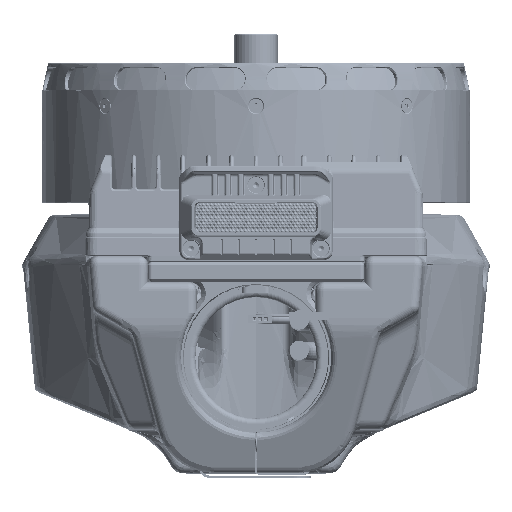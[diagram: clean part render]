
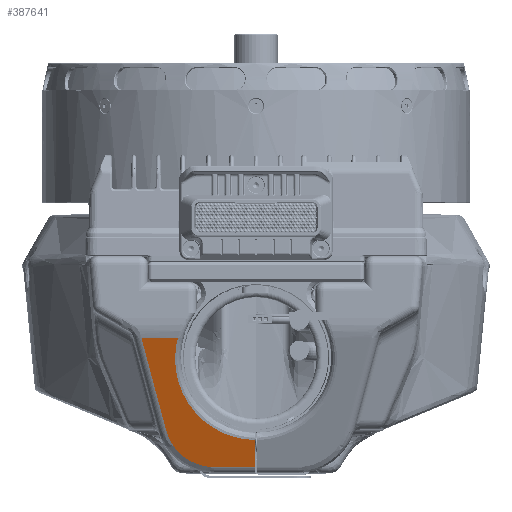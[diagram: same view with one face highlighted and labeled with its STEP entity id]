
A CAD part, top view. The second image highlights one B-rep face of the part: STEP entity #387641.
In plain terms, the highlighted planar face has unit normal (0, -0.342, 0.94).
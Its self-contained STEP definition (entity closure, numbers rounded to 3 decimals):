
#8993 = CARTESIAN_POINT ( 'NONE',  ( 14.653, -38.026, 140.52 ) ) ;
#9891 = DIRECTION ( 'NONE',  ( -1., 0., 0. ) ) ;
#15920 = CARTESIAN_POINT ( 'NONE',  ( -39.679, 6.686, 156.794 ) ) ;
#29533 = CARTESIAN_POINT ( 'NONE',  ( -0.5, -28.68, 143.922 ) ) ;
#45814 = CARTESIAN_POINT ( 'NONE',  ( -0.5, -28.68, 143.922 ) ) ;
#52239 = EDGE_CURVE ( 'NONE', #202598, #122658, #120311, .T. ) ;
#75544 = EDGE_CURVE ( 'NONE', #122658, #155659, #384957, .T. ) ;
#82303 = EDGE_CURVE ( 'NONE', #326124, #196541, #129674, .T. ) ;
#94206 = PLANE ( 'NONE',  #268714 ) ;
#94719 = CARTESIAN_POINT ( 'NONE',  ( -22.655, -38.026, 140.52 ) ) ;
#102432 =( BOUNDED_CURVE ( )  B_SPLINE_CURVE ( 3, ( #45814, #197483, #273383, #124104 ),
 .UNSPECIFIED., .F., .F. ) 
 B_SPLINE_CURVE_WITH_KNOTS ( ( 4, 4 ),
 ( 0.018, 1.837 ),
 .UNSPECIFIED. ) 
 CURVE ( )  GEOMETRIC_REPRESENTATION_ITEM ( )  RATIONAL_B_SPLINE_CURVE ( ( 1., 0.743, 0.743, 1. ) ) 
 REPRESENTATION_ITEM ( '' )  );
#120311 = LINE ( 'NONE', #8993, #358769 ) ;
#122658 = VERTEX_POINT ( 'NONE', #286259 ) ;
#124104 = CARTESIAN_POINT ( 'NONE',  ( -27.013, 6.686, 156.794 ) ) ;
#126182 = CARTESIAN_POINT ( 'NONE',  ( -81.247, 6.686, 156.794 ) ) ;
#129674 = LINE ( 'NONE', #400252, #147383 ) ;
#147383 = VECTOR ( 'NONE', #316879, 1000. ) ;
#155659 = VERTEX_POINT ( 'NONE', #29533 ) ;
#194776 = CARTESIAN_POINT ( 'NONE',  ( -27.013, 6.686, 156.794 ) ) ;
#195905 = ORIENTED_EDGE ( 'NONE', *, *, #478522, .T. ) ;
#196541 = VERTEX_POINT ( 'NONE', #200026 ) ;
#197483 = CARTESIAN_POINT ( 'NONE',  ( -20.335, -28.325, 144.051 ) ) ;
#200026 = CARTESIAN_POINT ( 'NONE',  ( -31.074, -25.426, 145.106 ) ) ;
#202598 = VERTEX_POINT ( 'NONE', #234142 ) ;
#220248 = CARTESIAN_POINT ( 'NONE',  ( -31.074, -25.426, 145.106 ) ) ;
#222516 = ORIENTED_EDGE ( 'NONE', *, *, #75544, .T. ) ;
#234142 = CARTESIAN_POINT ( 'NONE',  ( -14.653, -38.026, 140.52 ) ) ;
#240874 = DIRECTION ( 'NONE',  ( 0., 0.94, 0.342 ) ) ;
#248893 = CARTESIAN_POINT ( 'NONE',  ( -14.653, -38.026, 140.52 ) ) ;
#250889 = DIRECTION ( 'NONE',  ( 0., 0.342, -0.94 ) ) ;
#268714 = AXIS2_PLACEMENT_3D ( 'NONE', #402675, #250889, #240874 ) ;
#273383 = CARTESIAN_POINT ( 'NONE',  ( -32.234, -12.452, 149.828 ) ) ;
#274556 = DIRECTION ( 'NONE',  ( 1., 0., 0. ) ) ;
#286259 = CARTESIAN_POINT ( 'NONE',  ( -0.5, -38.026, 140.52 ) ) ;
#292124 = EDGE_CURVE ( 'NONE', #386640, #326124, #356292, .T. ) ;
#301617 = DIRECTION ( 'NONE',  ( 0., 0.94, 0.342 ) ) ;
#307600 = EDGE_CURVE ( 'NONE', #196541, #202598, #484789, .T. ) ;
#316879 = DIRECTION ( 'NONE',  ( 0.244, -0.911, -0.332 ) ) ;
#324319 = FACE_OUTER_BOUND ( 'NONE', #364888, .T. ) ;
#326124 = VERTEX_POINT ( 'NONE', #15920 ) ;
#344550 = ORIENTED_EDGE ( 'NONE', *, *, #52239, .T. ) ;
#356292 = LINE ( 'NONE', #126182, #420802 ) ;
#358769 = VECTOR ( 'NONE', #274556, 1000. ) ;
#364888 = EDGE_LOOP ( 'NONE', ( #344550, #222516, #195905, #367577, #397908, #491178 ) ) ;
#367577 = ORIENTED_EDGE ( 'NONE', *, *, #292124, .T. ) ;
#384957 = LINE ( 'NONE', #417908, #500565 ) ;
#386640 = VERTEX_POINT ( 'NONE', #194776 ) ;
#387641 = ADVANCED_FACE ( 'NONE', ( #324319 ), #94206, .F. ) ;
#397908 = ORIENTED_EDGE ( 'NONE', *, *, #82303, .T. ) ;
#400252 = CARTESIAN_POINT ( 'NONE',  ( -42.992, 19.051, 161.294 ) ) ;
#400667 = CARTESIAN_POINT ( 'NONE',  ( -29.003, -33.155, 142.293 ) ) ;
#402675 = CARTESIAN_POINT ( 'NONE',  ( -81.247, 10., 158. ) ) ;
#417908 = CARTESIAN_POINT ( 'NONE',  ( -0.5, 10., 158. ) ) ;
#420802 = VECTOR ( 'NONE', #9891, 1000. ) ;
#478522 = EDGE_CURVE ( 'NONE', #155659, #386640, #102432, .T. ) ;
#484789 =( BOUNDED_CURVE ( )  B_SPLINE_CURVE ( 3, ( #220248, #400667, #94719, #248893 ),
 .UNSPECIFIED., .F., .T. ) 
 B_SPLINE_CURVE_WITH_KNOTS ( ( 4, 4 ),
 ( 4.974, 6.283 ),
 .UNSPECIFIED. ) 
 CURVE ( )  GEOMETRIC_REPRESENTATION_ITEM ( )  RATIONAL_B_SPLINE_CURVE ( ( 1., 0.862, 0.862, 1. ) ) 
 REPRESENTATION_ITEM ( '' )  );
#491178 = ORIENTED_EDGE ( 'NONE', *, *, #307600, .T. ) ;
#500565 = VECTOR ( 'NONE', #301617, 1000. ) ;
